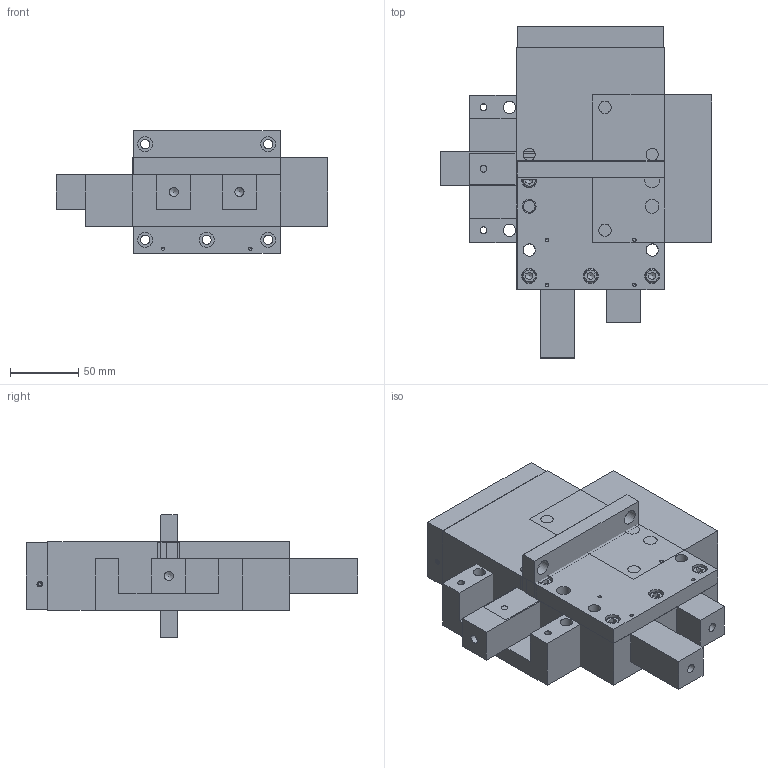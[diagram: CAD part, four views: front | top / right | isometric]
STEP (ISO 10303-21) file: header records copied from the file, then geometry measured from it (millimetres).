
FILE_DESCRIPTION( ( 'Vereinzelungsmodul PVM 3 ohne Sensor' ), '1' );
FILE_NAME( 'S:/Normgeräte/Neutrale CAD Daten/PVM 3/Step/PVM3.stp', '06.12.2006', ( 'MHeitzmann' ), ( 'Robo Mat AG' ), 'XStep 1.0', 'Solid Edge V18', ' ' );
FILE_SCHEMA( ( 'CONFIG_CONTROL_DESIGN' ) );
Length unit declared in the file: millimetre
Products named in the file (8): Assem1; 1; 2; 3; 4; 5; 6; 7
Bounding box: 198.5 x 243 x 90 mm (x, y, z)
Volume: 1795064.1 mm3; surface area: 354455 mm2
Topology: 27 solids, 27 shells, 636 faces, 1503 edges, 995 vertices
Faces by surface type: plane 290, cylinder 236, cone 94, torus 16
Full cylindrical faces by diameter (mm): 2.2 x5, 2.459 x8, 3 x5, 3.65 x5, 3.85 x5, 4 x29, 4.917 x30, 6 x17, 6.6 x22, 6.647 x6, 8.5 x4, 8.566 x4, 9 x16, 10 x17, 11 x22, 12 x7, 17 x4, 22 x4, 26 x4, 32 x4, 38 x4
Entity records: 6643 total; most frequent: CARTESIAN_POINT 1462, DIRECTION 1033, ORIENTED_EDGE 718, EDGE_LOOP 457, AXIS2_PLACEMENT_3D 449, EDGE_CURVE 359, VERTEX_POINT 328, FACE_OUTER_BOUND 320
